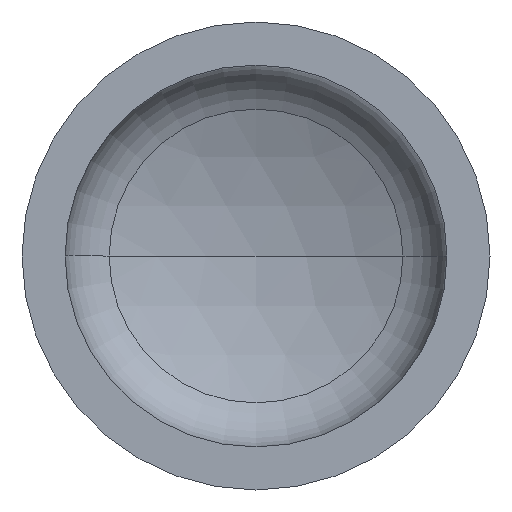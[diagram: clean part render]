
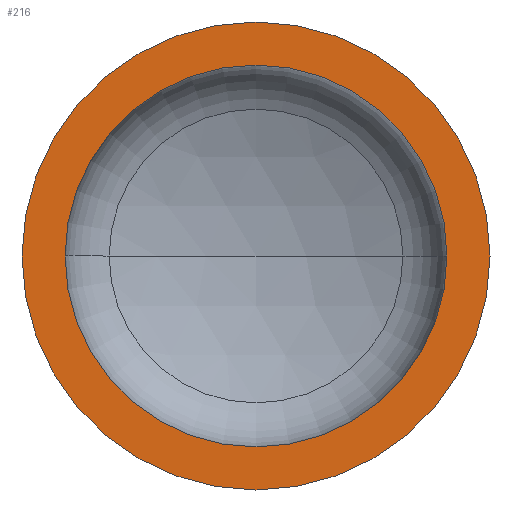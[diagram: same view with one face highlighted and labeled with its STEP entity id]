
A CAD part, front view. The second image highlights one B-rep face of the part: STEP entity #216.
In plain terms, the highlighted planar face has unit normal (0, -1, 0).
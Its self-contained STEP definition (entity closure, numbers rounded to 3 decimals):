
#7 = EDGE_LOOP ( 'NONE', ( #134, #27 ) ) ;
#8 = DIRECTION ( 'NONE',  ( -1., 0., 0. ) ) ;
#12 = VERTEX_POINT ( 'NONE', #372 ) ;
#14 = AXIS2_PLACEMENT_3D ( 'NONE', #351, #84, #243 ) ;
#20 = DIRECTION ( 'NONE',  ( 0., 1., 0. ) ) ;
#27 = ORIENTED_EDGE ( 'NONE', *, *, #82, .T. ) ;
#28 = AXIS2_PLACEMENT_3D ( 'NONE', #232, #227, #173 ) ;
#35 = AXIS2_PLACEMENT_3D ( 'NONE', #188, #20, #8 ) ;
#36 = AXIS2_PLACEMENT_3D ( 'NONE', #177, #389, #393 ) ;
#47 = AXIS2_PLACEMENT_3D ( 'NONE', #318, #304, #303 ) ;
#56 = EDGE_LOOP ( 'NONE', ( #67, #109 ) ) ;
#67 = ORIENTED_EDGE ( 'NONE', *, *, #338, .F. ) ;
#82 = EDGE_CURVE ( 'NONE', #12, #117, #253, .T. ) ;
#84 = DIRECTION ( 'NONE',  ( 0., -1., 0. ) ) ;
#85 = FACE_OUTER_BOUND ( 'NONE', #7, .T. ) ;
#109 = ORIENTED_EDGE ( 'NONE', *, *, #311, .F. ) ;
#117 = VERTEX_POINT ( 'NONE', #319 ) ;
#129 = VERTEX_POINT ( 'NONE', #182 ) ;
#133 = VERTEX_POINT ( 'NONE', #379 ) ;
#134 = ORIENTED_EDGE ( 'NONE', *, *, #292, .T. ) ;
#149 = CIRCLE ( 'NONE', #14, 408. ) ;
#153 = PLANE ( 'NONE',  #35 ) ;
#173 = DIRECTION ( 'NONE',  ( 1., 0., 0. ) ) ;
#177 = CARTESIAN_POINT ( 'NONE',  ( 0., 0., 0. ) ) ;
#182 = CARTESIAN_POINT ( 'NONE',  ( 408., 0., 0. ) ) ;
#188 = CARTESIAN_POINT ( 'NONE',  ( -500., 0., 0. ) ) ;
#216 = ADVANCED_FACE ( 'NONE', ( #236, #85 ), #153, .F. ) ;
#227 = DIRECTION ( 'NONE',  ( 0., -1., 0. ) ) ;
#232 = CARTESIAN_POINT ( 'NONE',  ( 0., 0., 0. ) ) ;
#236 = FACE_BOUND ( 'NONE', #56, .T. ) ;
#243 = DIRECTION ( 'NONE',  ( 1., 0., 0. ) ) ;
#253 = CIRCLE ( 'NONE', #47, 500. ) ;
#292 = EDGE_CURVE ( 'NONE', #117, #12, #361, .T. ) ;
#303 = DIRECTION ( 'NONE',  ( 1., 0., 0. ) ) ;
#304 = DIRECTION ( 'NONE',  ( 0., -1., 0. ) ) ;
#311 = EDGE_CURVE ( 'NONE', #133, #129, #407, .T. ) ;
#318 = CARTESIAN_POINT ( 'NONE',  ( 0., 0., 0. ) ) ;
#319 = CARTESIAN_POINT ( 'NONE',  ( 500., 0., 0. ) ) ;
#338 = EDGE_CURVE ( 'NONE', #129, #133, #149, .T. ) ;
#351 = CARTESIAN_POINT ( 'NONE',  ( 0., 0., 0. ) ) ;
#361 = CIRCLE ( 'NONE', #28, 500. ) ;
#372 = CARTESIAN_POINT ( 'NONE',  ( -500., 0., 0. ) ) ;
#379 = CARTESIAN_POINT ( 'NONE',  ( -408., 0., 0. ) ) ;
#389 = DIRECTION ( 'NONE',  ( 0., -1., 0. ) ) ;
#393 = DIRECTION ( 'NONE',  ( 1., 0., 0. ) ) ;
#407 = CIRCLE ( 'NONE', #36, 408. ) ;
